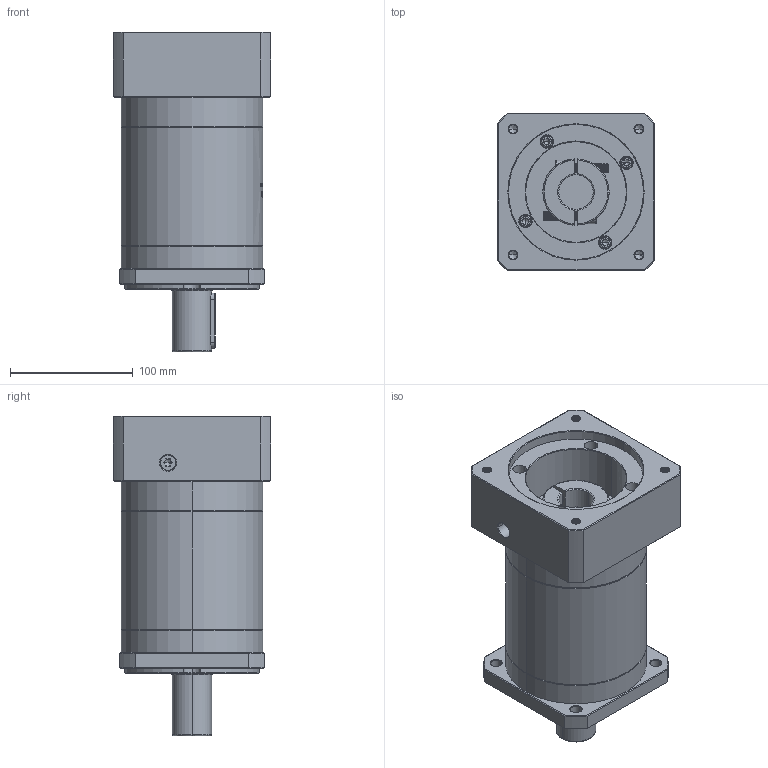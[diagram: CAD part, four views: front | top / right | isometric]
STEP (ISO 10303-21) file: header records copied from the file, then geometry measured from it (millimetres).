
FILE_DESCRIPTION (( 'STEP AP214' ), '1' );
FILE_NAME ('ZF120A-D32-L3-28-110-145-M8.step', '2023-03-07T09:36:02', ( '' ), ( '' ), 'SwSTEP 2.0', 'SolidWorks 2016', '' );
FILE_SCHEMA (( 'AUTOMOTIVE_DESIGN' ));
Length unit declared in the file: millimetre
Products named in the file (1): ZF120A-D32-L3-28-110-145-M8
Bounding box: 128 x 128 x 260.5 mm (x, y, z)
Volume: 2264633.9 mm3; surface area: 201600.6 mm2
Topology: 6 solids, 6 shells, 1939 faces, 5065 edges, 3223 vertices
Faces by surface type: plane 856, cylinder 420, cone 322, bspline 321, torus 20
Entity records: 106572 total; most frequent: CARTESIAN_POINT 41399, ORIENTED_EDGE 10070, DIRECTION 7801, EDGE_CURVE 5035, VERTEX_POINT 3223, VECTOR 2739, LINE 2739, AXIS2_PLACEMENT_3D 2531
